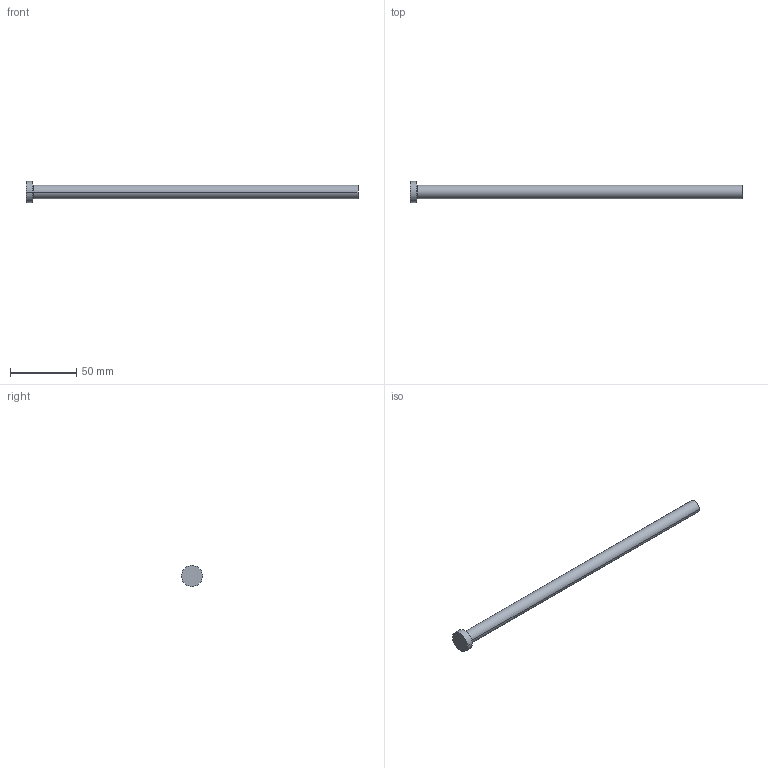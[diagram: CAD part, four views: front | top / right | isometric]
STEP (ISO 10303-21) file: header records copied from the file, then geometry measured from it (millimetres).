
FILE_DESCRIPTION (( 'STEP AP214' ), '1' );
FILE_NAME ('A-10x250.STEP', '2020-05-29T16:02:52', ( 'August' ), ( '' ), 'SwSTEP 2.0', 'SolidWorks 2018', '' );
FILE_SCHEMA (( 'AUTOMOTIVE_DESIGN' ));
Length unit declared in the file: millimetre
Products named in the file (1): A-10x250
Bounding box: 250 x 16 x 16 mm (x, y, z)
Volume: 20249.3 mm3; surface area: 8343.7 mm2
Topology: 1 solids, 1 shells, 9 faces, 16 edges, 10 vertices
Faces by surface type: cylinder 4, plane 3, torus 2
Entity records: 260 total; most frequent: DIRECTION 48, CARTESIAN_POINT 36, ORIENTED_EDGE 32, AXIS2_PLACEMENT_3D 22, EDGE_CURVE 16, CIRCLE 12, VERTEX_POINT 10, EDGE_LOOP 10
